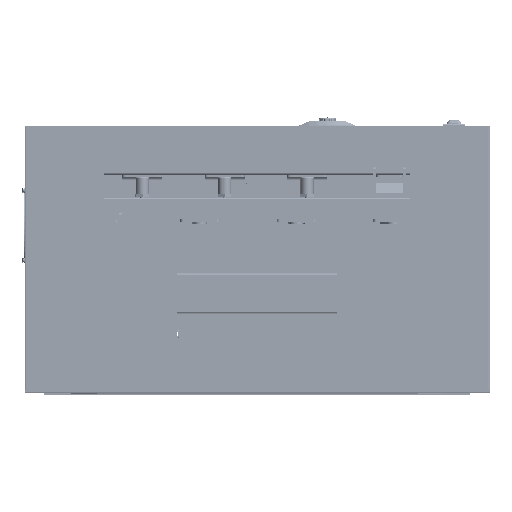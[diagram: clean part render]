
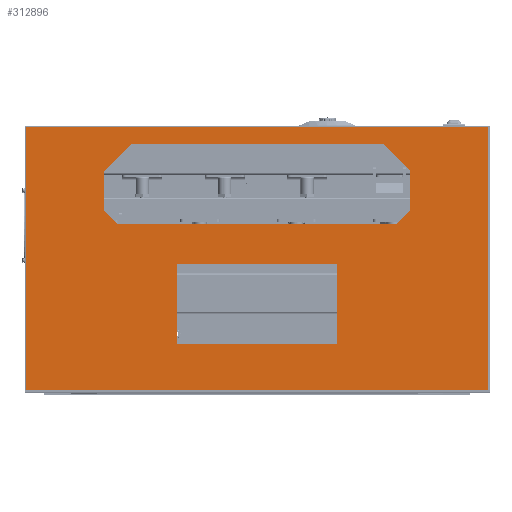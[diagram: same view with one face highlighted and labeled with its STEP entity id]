
A CAD part, top view. The second image highlights one B-rep face of the part: STEP entity #312896.
In plain terms, the highlighted planar face has unit normal (0, 0, 1) as drawn and (0, -1, 0) by its records, which use the part's own axes.
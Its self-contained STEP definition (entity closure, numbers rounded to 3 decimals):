
#309428=DIRECTION('',(-1.,0.,0.));
#309429=VECTOR('',#309428,420.);
#309430=CARTESIAN_POINT('',(210.,0.,52.));
#309431=LINE('',#309430,#309429);
#309440=DIRECTION('',(0.,0.,1.));
#309441=VECTOR('',#309440,60.);
#309442=CARTESIAN_POINT('',(-230.,0.,72.));
#309443=LINE('',#309442,#309441);
#309444=DIRECTION('',(-1.,0.,0.));
#309445=VECTOR('',#309444,695.);
#309446=CARTESIAN_POINT('',(347.5,0.,-198.));
#309447=LINE('',#309446,#309445);
#309448=DIRECTION('',(0.707,0.,0.707));
#309449=VECTOR('',#309448,28.284);
#309450=CARTESIAN_POINT('',(210.,0.,52.));
#309451=LINE('',#309450,#309449);
#309452=DIRECTION('',(-0.707,0.,0.707));
#309453=VECTOR('',#309452,56.569);
#309454=CARTESIAN_POINT('',(230.,0.,132.));
#309455=LINE('',#309454,#309453);
#309456=DIRECTION('',(-0.707,0.,-0.707));
#309457=VECTOR('',#309456,56.569);
#309458=CARTESIAN_POINT('',(-190.,0.,172.));
#309459=LINE('',#309458,#309457);
#309460=DIRECTION('',(0.707,0.,-0.707));
#309461=VECTOR('',#309460,28.284);
#309462=CARTESIAN_POINT('',(-230.,0.,72.));
#309463=LINE('',#309462,#309461);
#309928=DIRECTION('',(0.,0.,1.));
#309929=VECTOR('',#309928,396.);
#309930=CARTESIAN_POINT('',(347.5,0.,-198.));
#309931=LINE('',#309930,#309929);
#309960=DIRECTION('',(-1.,0.,0.));
#309961=VECTOR('',#309960,695.);
#309962=CARTESIAN_POINT('',(347.5,0.,198.));
#309963=LINE('',#309962,#309961);
#309986=DIRECTION('',(0.,0.,-1.));
#309987=VECTOR('',#309986,396.);
#309988=CARTESIAN_POINT('',(-347.5,0.,198.));
#309989=LINE('',#309988,#309987);
#311912=DIRECTION('',(1.,0.,0.));
#311913=VECTOR('',#311912,240.);
#311914=CARTESIAN_POINT('',(-120.,0.,-8.));
#311915=LINE('',#311914,#311913);
#311920=DIRECTION('',(0.,0.,1.));
#311921=VECTOR('',#311920,120.);
#311922=CARTESIAN_POINT('',(-120.,0.,-128.));
#311923=LINE('',#311922,#311921);
#311928=DIRECTION('',(-1.,0.,0.));
#311929=VECTOR('',#311928,240.);
#311930=CARTESIAN_POINT('',(120.,0.,-128.));
#311931=LINE('',#311930,#311929);
#311936=DIRECTION('',(0.,0.,-1.));
#311937=VECTOR('',#311936,120.);
#311938=CARTESIAN_POINT('',(120.,0.,-8.));
#311939=LINE('',#311938,#311937);
#311944=DIRECTION('',(0.,0.,-1.));
#311945=VECTOR('',#311944,60.);
#311946=CARTESIAN_POINT('',(230.,0.,132.));
#311947=LINE('',#311946,#311945);
#311956=DIRECTION('',(1.,0.,0.));
#311957=VECTOR('',#311956,380.);
#311958=CARTESIAN_POINT('',(-190.,0.,172.));
#311959=LINE('',#311958,#311957);
#311965=CARTESIAN_POINT('',(210.,0.,52.));
#311967=VERTEX_POINT('',#311965);
#311970=CARTESIAN_POINT('',(230.,0.,72.));
#311971=VERTEX_POINT('',#311970);
#311973=CARTESIAN_POINT('',(-210.,0.,52.));
#311975=VERTEX_POINT('',#311973);
#311977=CARTESIAN_POINT('',(-230.,0.,72.));
#311979=VERTEX_POINT('',#311977);
#311980=CARTESIAN_POINT('',(-230.,0.,132.));
#311981=VERTEX_POINT('',#311980);
#311984=CARTESIAN_POINT('',(347.5,0.,-198.));
#311985=CARTESIAN_POINT('',(-347.5,0.,-198.));
#311986=VERTEX_POINT('',#311984);
#311987=VERTEX_POINT('',#311985);
#311988=CARTESIAN_POINT('',(-347.5,0.,198.));
#311989=VERTEX_POINT('',#311988);
#311990=CARTESIAN_POINT('',(347.5,0.,198.));
#311991=VERTEX_POINT('',#311990);
#311992=CARTESIAN_POINT('',(-120.,0.,-8.));
#311993=CARTESIAN_POINT('',(120.,0.,-8.));
#311994=VERTEX_POINT('',#311992);
#311995=VERTEX_POINT('',#311993);
#311996=CARTESIAN_POINT('',(-120.,0.,-128.));
#311997=VERTEX_POINT('',#311996);
#311998=CARTESIAN_POINT('',(120.,0.,-128.));
#311999=VERTEX_POINT('',#311998);
#312000=CARTESIAN_POINT('',(230.,0.,132.));
#312001=VERTEX_POINT('',#312000);
#312002=CARTESIAN_POINT('',(190.,0.,172.));
#312003=VERTEX_POINT('',#312002);
#312004=CARTESIAN_POINT('',(-190.,0.,172.));
#312005=VERTEX_POINT('',#312004);
#312857=CARTESIAN_POINT('',(325.,0.,-198.));
#312858=DIRECTION('',(0.,1.,0.));
#312859=DIRECTION('',(-1.,0.,0.));
#312860=AXIS2_PLACEMENT_3D('',#312857,#312858,#312859);
#312861=PLANE('',#312860);
#312863=ORIENTED_EDGE('',*,*,#312862,.T.);
#312865=ORIENTED_EDGE('',*,*,#312864,.F.);
#312867=ORIENTED_EDGE('',*,*,#312866,.F.);
#312869=ORIENTED_EDGE('',*,*,#312868,.F.);
#312870=EDGE_LOOP('',(#312863,#312865,#312867,#312869));
#312871=FACE_OUTER_BOUND('',#312870,.F.);
#312873=ORIENTED_EDGE('',*,*,#312872,.F.);
#312875=ORIENTED_EDGE('',*,*,#312874,.F.);
#312877=ORIENTED_EDGE('',*,*,#312876,.F.);
#312879=ORIENTED_EDGE('',*,*,#312878,.F.);
#312880=EDGE_LOOP('',(#312873,#312875,#312877,#312879));
#312881=FACE_BOUND('',#312880,.F.);
#312882=ORIENTED_EDGE('',*,*,#312822,.F.);
#312883=ORIENTED_EDGE('',*,*,#312807,.T.);
#312885=ORIENTED_EDGE('',*,*,#312884,.F.);
#312887=ORIENTED_EDGE('',*,*,#312886,.T.);
#312889=ORIENTED_EDGE('',*,*,#312888,.F.);
#312891=ORIENTED_EDGE('',*,*,#312890,.T.);
#312892=ORIENTED_EDGE('',*,*,#312848,.F.);
#312893=ORIENTED_EDGE('',*,*,#312837,.T.);
#312894=EDGE_LOOP('',(#312882,#312883,#312885,#312887,#312889,#312891,#312892,
#312893));
#312895=FACE_BOUND('',#312894,.F.);
#312807=EDGE_CURVE('',#311967,#311971,#309451,.T.);
#312822=EDGE_CURVE('',#311967,#311975,#309431,.T.);
#312837=EDGE_CURVE('',#311979,#311975,#309463,.T.);
#312848=EDGE_CURVE('',#311979,#311981,#309443,.T.);
#312862=EDGE_CURVE('',#311986,#311987,#309447,.T.);
#312864=EDGE_CURVE('',#311989,#311987,#309989,.T.);
#312866=EDGE_CURVE('',#311991,#311989,#309963,.T.);
#312868=EDGE_CURVE('',#311986,#311991,#309931,.T.);
#312872=EDGE_CURVE('',#311994,#311995,#311915,.T.);
#312874=EDGE_CURVE('',#311997,#311994,#311923,.T.);
#312876=EDGE_CURVE('',#311999,#311997,#311931,.T.);
#312878=EDGE_CURVE('',#311995,#311999,#311939,.T.);
#312884=EDGE_CURVE('',#312001,#311971,#311947,.T.);
#312886=EDGE_CURVE('',#312001,#312003,#309455,.T.);
#312888=EDGE_CURVE('',#312005,#312003,#311959,.T.);
#312890=EDGE_CURVE('',#312005,#311981,#309459,.T.);
#312896=ADVANCED_FACE('',(#312871,#312881,#312895),#312861,.F.);
